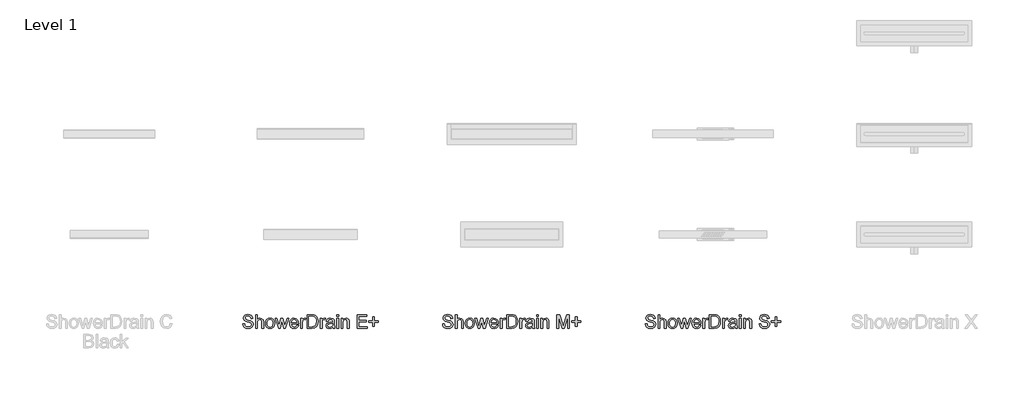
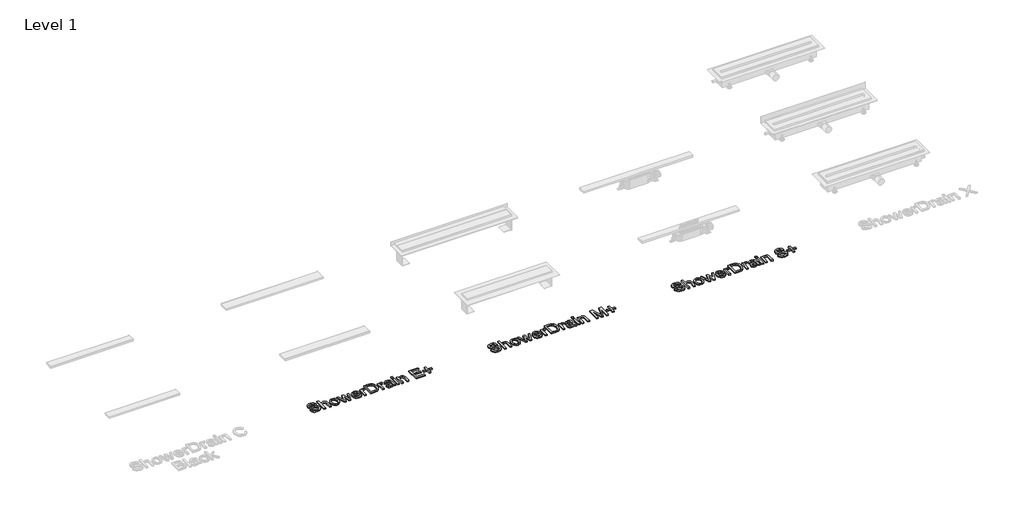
# One storey, part 2 of 3: 3 proxies.
"""IFC4 building model written with IfcOpenShell, lengths in millimetres."""

from ifc_helpers import new_model, si_unit, origin, origin_with_axes, place, context, project, spatial, polyline, outline, extrude, element, save

model = new_model("IFC4")

# Units and contexts
model_context = context("Model", 3, world=origin())
ifc_project = project(units=[si_unit("LENGTHUNIT", "METRE", prefix="MILLI")], contexts=[model_context])

# Site, building, storey
site = spatial("IfcSite", under=ifc_project)
building = spatial("IfcBuilding", under=site)
storey = spatial("IfcBuildingStorey", under=building, Name="Level 1", Elevation=0.0)

# Proxies
placement = place(None, origin())
element("IfcBuildingElementProxy", 1, Name="100mm ACO", ObjectType="100mm ACO", at=placement, inside=storey, context=model_context, shape_type="SweptSolid", body=[
    extrude(outline(polyline([(3557.6831943, -629.2183251), (3555.660445, -620.2723888), (3551.1638295, -613.8658032), (3544.193348, -610.0131205), (3534.7490003, -608.728893), (3519.0326745, -612.7307352), (3514.4924026, -617.645725), (3512.9789786, -624.3870102), (3517.4755941, -634.5007569), (3535.7676511, -640.8309437), (3555.7186536, -646.3462099), (3568.9465612, -655.3248886), (3573.0720967, -662.4481678), (3574.4472752, -671.6524049), (3571.9261146, -683.5597045), (3564.3626328, -693.2623529), (3552.7463762, -699.712595), (3538.0668914, -701.8626757), (3519.9785645, -699.4761225), (3507.0999086, -692.3164629), (3499.2417457, -681.3586913), (3496.2148977, -667.5778019), (3509.2536273, -666.4718382), (3511.8984812, -677.4114197), (3518.1449931, -684.9094168), (3527.0327209, -689.2423205), (3537.6012224, -690.6866217), (3554.8309722, -685.9280675), (3559.7641523, -680.3218504), (3561.4085456, -673.0203073), (3559.7095817, -665.6496416), (3554.6126899, -660.5927682), (3531.1982749, -653.0984091), (3516.9044221, -648.7327631), (3507.2599823, -642.8245887), (3501.7701824, -635.1519658), (3499.9402491, -625.4929738), (3502.2358513, -614.4333371), (3509.1226579, -605.4692106), (3519.9676504, -599.5319319), (3534.1378099, -597.552839), (3548.7845524, -599.5464841), (3560.2443734, -605.5274192), (3567.796941, -615.175497), (3570.7219239, -628.1705701), (3557.6831943, -629.2183251)])), origin_with_axes(), (0.0, 0.0, 1.0), 10.0),
    extrude(outline(polyline([(3650.816977, -700.0), (3637.7782475, -700.0), (3637.7782475, -653.0256483), (3634.0674483, -639.3611762), (3622.9932595, -634.8063521), (3609.9836342, -640.1760968), (3605.6834728, -647.6522657), (3604.2500857, -659.341283), (3604.2500857, -700.0), (3591.2113561, -700.0), (3591.2113561, -599.4155147), (3604.2500857, -599.4155147), (3604.2500857, -635.4466469), (3614.0073046, -627.9813921), (3625.9327945, -625.4929738), (3639.2916714, -628.3743002), (3648.2412459, -637.2365618), (3650.816977, -653.8405689), (3650.816977, -700.0)])), origin_with_axes(), (0.0, 0.0, 1.0), 10.0),
    extrude(outline(polyline([(3699.2174397, -625.4929738), (3712.4708136, -627.9013552), (3723.2430452, -635.1264995), (3730.3917907, -646.7900506), (3732.7747058, -662.5136525), (3730.1953366, -680.8930224), (3722.457229, -692.9567577), (3711.4885432, -699.6361962), (3699.2174397, -701.8626757), (3686.5534281, -699.5743495), (3675.6866074, -692.7093711), (3668.2104386, -680.8748322), (3665.7183823, -663.6778247), (3668.1267637, -646.8628113), (3675.3519079, -634.9518736), (3686.1350537, -627.8576988), (3699.2174397, -625.4929738)]), holes=[polyline([(3699.2174397, -692.5492974), (3708.0760632, -690.5301861), (3714.5117531, -684.4728522), (3719.7359762, -663.2121558), (3718.2589327, -650.8573775), (3713.8278019, -641.9660117), (3707.2211242, -636.596267), (3699.2174397, -634.8063521), (3691.0573196, -636.6217333), (3684.5052125, -642.0678767), (3680.194137, -651.1084021), (3678.7571118, -663.7069291), (3680.2196033, -676.2617995), (3684.6070776, -685.2877728), (3691.184651, -690.7339162), (3699.2174397, -692.5492974)])]), origin_with_axes(), (0.0, 0.0, 1.0), 10.0),
    extrude(outline(polyline([(3837.5502114, -627.3556495), (3813.1899063, -700.0), (3800.8496801, -700.0), (3790.2848166, -656.3435394), (3788.9751228, -650.4499172), (3787.7236376, -644.0033131), (3774.8886382, -700.0), (3762.5775163, -700.0), (3737.8970639, -627.3556495), (3749.5096824, -627.3556495), (3767.2342054, -684.9239689), (3769.3588198, -675.1158174), (3780.4475608, -627.3556495), (3795.1161316, -627.3556495), (3803.9056324, -665.4531875), (3807.9802353, -683.3523363), (3825.9375928, -627.3556495), (3837.5502114, -627.3556495)])), origin_with_axes(), (0.0, 0.0, 1.0), 10.0),
    extrude(outline(polyline([(3911.5915686, -666.4718382), (3857.5739746, -666.4718382), (3859.6585706, -677.6624443), (3864.3989347, -685.8553068), (3871.2202566, -690.8757997), (3879.5477265, -692.5492974), (3891.2913144, -688.8384982), (3898.552839, -677.6478922), (3911.5915686, -679.1613161), (3907.1895422, -688.8384982), (3900.2117845, -695.9836056), (3890.9129584, -700.3929081), (3879.5477265, -701.8626757), (3864.8755177, -699.3415151), (3853.8049669, -691.7780332), (3846.8526755, -679.8489054), (3844.5352451, -664.2308066), (3846.7690006, -648.6017937), (3853.4702673, -636.2324632), (3864.2315849, -628.1778462), (3878.645493, -625.4929738), (3893.9543585, -628.9709385), (3906.4546584, -640.8163915), (3910.3073411, -651.4139973), (3911.5915686, -666.4718382)]), holes=[polyline([(3898.552839, -657.15846), (3896.4573289, -646.9428482), (3891.6842226, -640.0451274), (3878.3253456, -634.8063521), (3870.4235262, -636.3634325), (3864.0642351, -641.0346738), (3857.5739746, -657.15846), (3898.552839, -657.15846)])]), origin_with_axes(), (0.0, 0.0, 1.0), 10.0),
    extrude(outline(polyline([(3965.6091626, -628.3451959), (3961.5345596, -636.6690278), (3952.9778933, -634.8063521), (3947.1497558, -636.4434694), (3942.9369073, -641.3548212), (3939.5317034, -659.6905347), (3939.5317034, -700.0), (3926.4929738, -700.0), (3926.4929738, -627.3556495), (3937.6690278, -627.3556495), (3937.6690278, -638.1242431), (3944.6395093, -628.6507912), (3953.1234148, -625.4929738), (3965.6091626, -628.3451959)])), origin_with_axes(), (0.0, 0.0, 1.0), 10.0),
    extrude(outline(polyline([(3974.9225408, -599.4155147), (4009.149206, -599.4155147), (4024.6326974, -600.3468525), (4037.0311322, -604.8725723), (4047.3777134, -614.7825888), (4054.3481949, -629.2910859), (4056.8802696, -649.1547755), (4054.2754341, -669.4077352), (4046.4609277, -685.6952331), (4032.2944062, -696.4238083), (4010.6335256, -700.0), (3974.9225408, -700.0), (3974.9225408, -599.4155147)]), holes=[polyline([(3987.9612704, -688.8239461), (4009.4111448, -688.8239461), (4021.1256284, -687.9799212), (4031.5886268, -683.4250971), (4040.3635753, -671.2594967), (4043.84154, -648.8637324), (4042.5027419, -634.4862047), (4037.584114, -622.3060522), (4029.3621473, -614.2587113), (4020.3107078, -611.1445504), (4009.0036845, -610.5915686), (3987.9612704, -610.5915686), (3987.9612704, -688.8239461)])]), origin_with_axes(), (0.0, 0.0, 1.0), 10.0),
    extrude(outline(polyline([(4112.7605392, -628.3451959), (4108.6859363, -636.6690278), (4100.12927, -634.8063521), (4094.3011325, -636.4434694), (4090.088284, -641.3548212), (4086.6830801, -659.6905347), (4086.6830801, -700.0), (4073.6443505, -700.0), (4073.6443505, -627.3556495), (4084.8204044, -627.3556495), (4084.8204044, -638.1242431), (4091.790886, -628.6507912), (4100.2747915, -625.4929738), (4112.7605392, -628.3451959)])), origin_with_axes(), (0.0, 0.0, 1.0), 10.0),
    extrude(outline(polyline([(4183.5422141, -700.0), (4170.5034845, -700.0), (4166.7781332, -691.2104993), (4154.2123486, -699.1996316), (4140.6715697, -701.8626757), (4130.6269458, -700.4074603), (4122.9615989, -696.0418142), (4118.1048176, -689.289615), (4116.4858906, -680.6747401), (4118.0720753, -672.3181659), (4122.8306295, -665.5841569), (4131.5109891, -660.6618909), (4144.86259, -657.7405461), (4156.2714784, -655.9942877), (4166.7781332, -653.4331086), (4166.4434337, -645.3566634), (4164.4934451, -640.4525877), (4159.2983263, -636.3634325), (4149.6648006, -634.8063521), (4137.5137524, -637.9641694), (4131.3872958, -649.7077573), (4118.3485662, -648.1070205), (4121.9247579, -638.2406603), (4128.6369388, -631.1683137), (4138.4778326, -626.9118088), (4151.4401634, -625.4929738), (4170.8090797, -629.3783988), (4178.4053039, -638.7499857), (4179.8168628, -652.8801268), (4179.8168628, -669.4986862), (4180.3698446, -689.8717011), (4183.5422141, -700.0)]), holes=[polyline([(4166.7781332, -667.4031761), (4166.7781332, -662.7464869), (4143.3637182, -668.1016794), (4132.9843946, -672.1835585), (4129.5246201, -680.4710099), (4133.2499714, -689.1440935), (4143.9894608, -692.5492974), (4159.8949646, -686.8448532), (4165.0573411, -679.1322118), (4166.7781332, -667.4031761)])]), origin_with_axes(), (0.0, 0.0, 1.0), 10.0),
    extrude(outline(polyline([(4211.4823489, -612.4542443), (4198.4436193, -612.4542443), (4198.4436193, -599.4155147), (4211.4823489, -599.4155147), (4211.4823489, -612.4542443)])), origin_with_axes(), (0.0, 0.0, 1.0), 10.0),
    extrude(outline(polyline([(4211.4823489, -700.0), (4198.4436193, -700.0), (4198.4436193, -627.3556495), (4211.4823489, -627.3556495), (4211.4823489, -700.0)])), origin_with_axes(), (0.0, 0.0, 1.0), 10.0),
    extrude(outline(polyline([(4289.7147264, -700.0), (4276.6759968, -700.0), (4276.6759968, -654.7719068), (4272.7905718, -639.0846853), (4261.9783217, -634.8063521), (4251.8936793, -637.542157), (4245.1414801, -645.2547984), (4243.147835, -659.341283), (4243.147835, -700.0), (4230.1091054, -700.0), (4230.1091054, -627.3556495), (4241.2851594, -627.3556495), (4241.2851594, -637.4548441), (4251.2388324, -628.4761653), (4264.568605, -625.4929738), (4276.0065977, -627.5593796), (4284.8543071, -633.7440449), (4288.8852536, -642.5335456), (4289.7147264, -655.1502628), (4289.7147264, -700.0)])), origin_with_axes(), (0.0, 0.0, 1.0), 10.0),
    extrude(outline(polyline([(4423.8273735, -700.0), (4349.3203473, -700.0), (4349.3203473, -599.4155147), (4421.9646978, -599.4155147), (4421.9646978, -610.5915686), (4362.3590769, -610.5915686), (4362.3590769, -642.2570547), (4418.2393465, -642.2570547), (4418.2393465, -653.4331086), (4362.3590769, -653.4331086), (4362.3590769, -688.8239461), (4423.8273735, -688.8239461), (4423.8273735, -700.0)])), origin_with_axes(), (0.0, 0.0, 1.0), 10.0),
    extrude(outline(polyline([(4505.7851023, -657.15846), (4477.8449674, -657.15846), (4477.8449674, -685.0985948), (4464.8062379, -685.0985948), (4464.8062379, -657.15846), (4436.8661031, -657.15846), (4436.8661031, -644.1197304), (4464.8062379, -644.1197304), (4464.8062379, -616.1795956), (4477.8449674, -616.1795956), (4477.8449674, -644.1197304), (4505.7851023, -644.1197304), (4505.7851023, -657.15846)])), origin_with_axes(), (0.0, 0.0, 1.0), 10.0),
])
element("IfcBuildingElementProxy", 2, Name="100mm ACO", ObjectType="100mm ACO", at=placement, inside=storey, context=model_context, shape_type="SweptSolid", body=[
    extrude(outline(polyline([(5046.5071404, -629.2183251), (5044.4843911, -620.2723888), (5039.9877756, -613.8658032), (5033.0172941, -610.0131205), (5023.5729464, -608.728893), (5007.8566206, -612.7307352), (5003.3163487, -617.645725), (5001.8029247, -624.3870102), (5006.2995402, -634.5007569), (5024.5915972, -640.8309437), (5044.5425997, -646.3462099), (5057.7705073, -655.3248886), (5061.8960428, -662.4481678), (5063.2712213, -671.6524049), (5060.7500607, -683.5597045), (5053.1865789, -693.2623529), (5041.5703223, -699.712595), (5026.8908374, -701.8626757), (5008.8025106, -699.4761225), (4995.9238547, -692.3164629), (4988.0656918, -681.3586913), (4985.0388438, -667.5778019), (4998.0775734, -666.4718382), (5000.7224273, -677.4114197), (5006.9689392, -684.9094168), (5015.856667, -689.2423205), (5026.4251685, -690.6866217), (5043.6549183, -685.9280675), (5048.5880984, -680.3218504), (5050.2324917, -673.0203073), (5048.5335278, -665.6496416), (5043.436636, -660.5927682), (5020.022221, -653.0984091), (5005.7283681, -648.7327631), (4996.0839284, -642.8245887), (4990.5941284, -635.1519658), (4988.7641951, -625.4929738), (4991.0597974, -614.4333371), (4997.946604, -605.4692106), (5008.7915965, -599.5319319), (5022.961756, -597.552839), (5037.6084985, -599.5464841), (5049.0683194, -605.5274192), (5056.6208871, -615.175497), (5059.54587, -628.1705701), (5046.5071404, -629.2183251)])), origin_with_axes(), (0.0, 0.0, 1.0), 10.0),
    extrude(outline(polyline([(5139.6409231, -700.0), (5126.6021935, -700.0), (5126.6021935, -653.0256483), (5122.8913944, -639.3611762), (5111.8172055, -634.8063521), (5098.8075803, -640.1760968), (5094.5074189, -647.6522657), (5093.0740318, -659.341283), (5093.0740318, -700.0), (5080.0353022, -700.0), (5080.0353022, -599.4155147), (5093.0740318, -599.4155147), (5093.0740318, -635.4466469), (5102.8312507, -627.9813921), (5114.7567405, -625.4929738), (5128.1156175, -628.3743002), (5137.0651919, -637.2365618), (5139.6409231, -653.8405689), (5139.6409231, -700.0)])), origin_with_axes(), (0.0, 0.0, 1.0), 10.0),
    extrude(outline(polyline([(5188.0413858, -625.4929738), (5201.2947597, -627.9013552), (5212.0669913, -635.1264995), (5219.2157367, -646.7900506), (5221.5986519, -662.5136525), (5219.0192827, -680.8930224), (5211.281175, -692.9567577), (5200.3124893, -699.6361962), (5188.0413858, -701.8626757), (5175.3773742, -699.5743495), (5164.5105535, -692.7093711), (5157.0343846, -680.8748322), (5154.5423283, -663.6778247), (5156.9507098, -646.8628113), (5164.175854, -634.9518736), (5174.9589998, -627.8576988), (5188.0413858, -625.4929738)]), holes=[polyline([(5188.0413858, -692.5492974), (5196.9000093, -690.5301861), (5203.3356992, -684.4728522), (5208.5599223, -663.2121558), (5207.0828787, -650.8573775), (5202.651748, -641.9660117), (5196.0450703, -636.596267), (5188.0413858, -634.8063521), (5179.8812657, -636.6217333), (5173.3291586, -642.0678767), (5169.0180831, -651.1084021), (5167.5810579, -663.7069291), (5169.0435494, -676.2617995), (5173.4310236, -685.2877728), (5180.0085971, -690.7339162), (5188.0413858, -692.5492974)])]), origin_with_axes(), (0.0, 0.0, 1.0), 10.0),
    extrude(outline(polyline([(5326.3741574, -627.3556495), (5302.0138524, -700.0), (5289.6736262, -700.0), (5279.1087627, -656.3435394), (5277.7990689, -650.4499172), (5276.5475837, -644.0033131), (5263.7125843, -700.0), (5251.4014624, -700.0), (5226.7210099, -627.3556495), (5238.3336285, -627.3556495), (5256.0581515, -684.9239689), (5258.1827659, -675.1158174), (5269.2715069, -627.3556495), (5283.9400777, -627.3556495), (5292.7295784, -665.4531875), (5296.8041814, -683.3523363), (5314.7615389, -627.3556495), (5326.3741574, -627.3556495)])), origin_with_axes(), (0.0, 0.0, 1.0), 10.0),
    extrude(outline(polyline([(5400.4155147, -666.4718382), (5346.3979207, -666.4718382), (5348.4825167, -677.6624443), (5353.2228807, -685.8553068), (5360.0442027, -690.8757997), (5368.3716726, -692.5492974), (5380.1152605, -688.8384982), (5387.3767851, -677.6478922), (5400.4155147, -679.1613161), (5396.0134882, -688.8384982), (5389.0357306, -695.9836056), (5379.7369045, -700.3929081), (5368.3716726, -701.8626757), (5353.6994638, -699.3415151), (5342.6289129, -691.7780332), (5335.6766216, -679.8489054), (5333.3591911, -664.2308066), (5335.5929467, -648.6017937), (5342.2942134, -636.2324632), (5353.055531, -628.1778462), (5367.469439, -625.4929738), (5382.7783046, -628.9709385), (5395.2786045, -640.8163915), (5399.1312871, -651.4139973), (5400.4155147, -666.4718382)]), holes=[polyline([(5387.3767851, -657.15846), (5385.281275, -646.9428482), (5380.5081686, -640.0451274), (5367.1492917, -634.8063521), (5359.2474723, -636.3634325), (5352.8881812, -641.0346738), (5346.3979207, -657.15846), (5387.3767851, -657.15846)])]), origin_with_axes(), (0.0, 0.0, 1.0), 10.0),
    extrude(outline(polyline([(5454.4331086, -628.3451959), (5450.3585057, -636.6690278), (5441.8018394, -634.8063521), (5435.9737019, -636.4434694), (5431.7608534, -641.3548212), (5428.3556495, -659.6905347), (5428.3556495, -700.0), (5415.3169199, -700.0), (5415.3169199, -627.3556495), (5426.4929738, -627.3556495), (5426.4929738, -638.1242431), (5433.4634554, -628.6507912), (5441.9473609, -625.4929738), (5454.4331086, -628.3451959)])), origin_with_axes(), (0.0, 0.0, 1.0), 10.0),
    extrude(outline(polyline([(5463.7464869, -599.4155147), (5497.9731521, -599.4155147), (5513.4566434, -600.3468525), (5525.8550783, -604.8725723), (5536.2016594, -614.7825888), (5543.172141, -629.2910859), (5545.7042157, -649.1547755), (5543.0993802, -669.4077352), (5535.2848738, -685.6952331), (5521.1183523, -696.4238083), (5499.4574717, -700.0), (5463.7464869, -700.0), (5463.7464869, -599.4155147)]), holes=[polyline([(5476.7852165, -688.8239461), (5498.2350908, -688.8239461), (5509.9495744, -687.9799212), (5520.4125728, -683.4250971), (5529.1875214, -671.2594967), (5532.6654861, -648.8637324), (5531.326688, -634.4862047), (5526.4080601, -622.3060522), (5518.1860933, -614.2587113), (5509.1346538, -611.1445504), (5497.8276305, -610.5915686), (5476.7852165, -610.5915686), (5476.7852165, -688.8239461)])]), origin_with_axes(), (0.0, 0.0, 1.0), 10.0),
    extrude(outline(polyline([(5601.5844853, -628.3451959), (5597.5098823, -636.6690278), (5588.953216, -634.8063521), (5583.1250785, -636.4434694), (5578.9122301, -641.3548212), (5575.5070262, -659.6905347), (5575.5070262, -700.0), (5562.4682966, -700.0), (5562.4682966, -627.3556495), (5573.6443505, -627.3556495), (5573.6443505, -638.1242431), (5580.6148321, -628.6507912), (5589.0987376, -625.4929738), (5601.5844853, -628.3451959)])), origin_with_axes(), (0.0, 0.0, 1.0), 10.0),
    extrude(outline(polyline([(5672.3661602, -700.0), (5659.3274306, -700.0), (5655.6020793, -691.2104993), (5643.0362947, -699.1996316), (5629.4955158, -701.8626757), (5619.4508918, -700.4074603), (5611.785545, -696.0418142), (5606.9287637, -689.289615), (5605.3098366, -680.6747401), (5606.8960214, -672.3181659), (5611.6545756, -665.5841569), (5620.3349352, -660.6618909), (5633.686536, -657.7405461), (5645.0954244, -655.9942877), (5655.6020793, -653.4331086), (5655.2673798, -645.3566634), (5653.3173912, -640.4525877), (5648.1222724, -636.3634325), (5638.4887467, -634.8063521), (5626.3376985, -637.9641694), (5620.2112419, -649.7077573), (5607.1725123, -648.1070205), (5610.748704, -638.2406603), (5617.4608848, -631.1683137), (5627.3017787, -626.9118088), (5640.2641094, -625.4929738), (5659.6330258, -629.3783988), (5667.22925, -638.7499857), (5668.6408089, -652.8801268), (5668.6408089, -669.4986862), (5669.1937907, -689.8717011), (5672.3661602, -700.0)]), holes=[polyline([(5655.6020793, -667.4031761), (5655.6020793, -662.7464869), (5632.1876642, -668.1016794), (5621.8083407, -672.1835585), (5618.3485662, -680.4710099), (5622.0739175, -689.1440935), (5632.8134068, -692.5492974), (5648.7189107, -686.8448532), (5653.8812871, -679.1322118), (5655.6020793, -667.4031761)])]), origin_with_axes(), (0.0, 0.0, 1.0), 10.0),
    extrude(outline(polyline([(5700.306295, -612.4542443), (5687.2675654, -612.4542443), (5687.2675654, -599.4155147), (5700.306295, -599.4155147), (5700.306295, -612.4542443)])), origin_with_axes(), (0.0, 0.0, 1.0), 10.0),
    extrude(outline(polyline([(5700.306295, -700.0), (5687.2675654, -700.0), (5687.2675654, -627.3556495), (5700.306295, -627.3556495), (5700.306295, -700.0)])), origin_with_axes(), (0.0, 0.0, 1.0), 10.0),
    extrude(outline(polyline([(5778.5386725, -700.0), (5765.4999429, -700.0), (5765.4999429, -654.7719068), (5761.6145179, -639.0846853), (5750.8022678, -634.8063521), (5740.7176254, -637.542157), (5733.9654261, -645.2547984), (5731.9717811, -659.341283), (5731.9717811, -700.0), (5718.9330515, -700.0), (5718.9330515, -627.3556495), (5730.1091054, -627.3556495), (5730.1091054, -637.4548441), (5740.0627785, -628.4761653), (5753.3925511, -625.4929738), (5764.8305438, -627.5593796), (5773.6782532, -633.7440449), (5777.7091997, -642.5335456), (5778.5386725, -655.1502628), (5778.5386725, -700.0)])), origin_with_axes(), (0.0, 0.0, 1.0), 10.0),
    extrude(outline(polyline([(5931.2780761, -700.0), (5918.2393465, -700.0), (5918.2393465, -615.7139267), (5892.5693477, -700.0), (5878.7156975, -700.0), (5851.561379, -614.3460242), (5851.183023, -700.0), (5838.1442934, -700.0), (5838.1442934, -599.4155147), (5857.9643265, -599.4155147), (5880.9276248, -670.6919628), (5885.3805838, -685.593368), (5890.4156289, -669.4695819), (5911.8946076, -599.4155147), (5931.2780761, -599.4155147), (5931.2780761, -700.0)])), origin_with_axes(), (0.0, 0.0, 1.0), 10.0),
    extrude(outline(polyline([(6016.9611562, -657.15846), (5989.0210214, -657.15846), (5989.0210214, -685.0985948), (5975.9822918, -685.0985948), (5975.9822918, -657.15846), (5948.042157, -657.15846), (5948.042157, -644.1197304), (5975.9822918, -644.1197304), (5975.9822918, -616.1795956), (5989.0210214, -616.1795956), (5989.0210214, -644.1197304), (6016.9611562, -644.1197304), (6016.9611562, -657.15846)])), origin_with_axes(), (0.0, 0.0, 1.0), 10.0),
])
element("IfcBuildingElementProxy", 3, Name="100mm ACO", ObjectType="100mm ACO", at=placement, inside=storey, context=model_context, shape_type="SweptSolid", body=[
    extrude(outline(polyline([(6557.6831943, -629.2183251), (6555.660445, -620.2723888), (6551.1638295, -613.8658032), (6544.193348, -610.0131205), (6534.7490003, -608.728893), (6519.0326745, -612.7307352), (6514.4924026, -617.645725), (6512.9789786, -624.3870102), (6517.4755941, -634.5007569), (6535.7676511, -640.8309437), (6555.7186536, -646.3462099), (6568.9465612, -655.3248886), (6573.0720967, -662.4481678), (6574.4472752, -671.6524049), (6571.9261146, -683.5597045), (6564.3626328, -693.2623529), (6552.7463762, -699.712595), (6538.0668914, -701.8626757), (6519.9785645, -699.4761225), (6507.0999086, -692.3164629), (6499.2417457, -681.3586913), (6496.2148977, -667.5778019), (6509.2536273, -666.4718382), (6511.8984812, -677.4114197), (6518.1449931, -684.9094168), (6527.0327209, -689.2423205), (6537.6012224, -690.6866217), (6554.8309722, -685.9280675), (6559.7641523, -680.3218504), (6561.4085456, -673.0203073), (6559.7095817, -665.6496416), (6554.6126899, -660.5927682), (6531.1982749, -653.0984091), (6516.9044221, -648.7327631), (6507.2599823, -642.8245887), (6501.7701824, -635.1519658), (6499.9402491, -625.4929738), (6502.2358513, -614.4333371), (6509.1226579, -605.4692106), (6519.9676504, -599.5319319), (6534.1378099, -597.552839), (6548.7845524, -599.5464841), (6560.2443734, -605.5274192), (6567.796941, -615.175497), (6570.7219239, -628.1705701), (6557.6831943, -629.2183251)])), origin_with_axes(), (0.0, 0.0, 1.0), 10.0),
    extrude(outline(polyline([(6650.816977, -700.0), (6637.7782475, -700.0), (6637.7782475, -653.0256483), (6634.0674483, -639.3611762), (6622.9932595, -634.8063521), (6609.9836342, -640.1760968), (6605.6834728, -647.6522657), (6604.2500857, -659.341283), (6604.2500857, -700.0), (6591.2113561, -700.0), (6591.2113561, -599.4155147), (6604.2500857, -599.4155147), (6604.2500857, -635.4466469), (6614.0073046, -627.9813921), (6625.9327945, -625.4929738), (6639.2916714, -628.3743002), (6648.2412459, -637.2365618), (6650.816977, -653.8405689), (6650.816977, -700.0)])), origin_with_axes(), (0.0, 0.0, 1.0), 10.0),
    extrude(outline(polyline([(6699.2174397, -625.4929738), (6712.4708136, -627.9013552), (6723.2430452, -635.1264995), (6730.3917907, -646.7900506), (6732.7747058, -662.5136525), (6730.1953366, -680.8930224), (6722.457229, -692.9567577), (6711.4885432, -699.6361962), (6699.2174397, -701.8626757), (6686.5534281, -699.5743495), (6675.6866074, -692.7093711), (6668.2104386, -680.8748322), (6665.7183823, -663.6778247), (6668.1267637, -646.8628113), (6675.3519079, -634.9518736), (6686.1350537, -627.8576988), (6699.2174397, -625.4929738)]), holes=[polyline([(6699.2174397, -692.5492974), (6708.0760632, -690.5301861), (6714.5117531, -684.4728522), (6719.7359762, -663.2121558), (6718.2589327, -650.8573775), (6713.8278019, -641.9660117), (6707.2211242, -636.596267), (6699.2174397, -634.8063521), (6691.0573196, -636.6217333), (6684.5052125, -642.0678767), (6680.194137, -651.1084021), (6678.7571118, -663.7069291), (6680.2196033, -676.2617995), (6684.6070776, -685.2877728), (6691.184651, -690.7339162), (6699.2174397, -692.5492974)])]), origin_with_axes(), (0.0, 0.0, 1.0), 10.0),
    extrude(outline(polyline([(6837.5502114, -627.3556495), (6813.1899063, -700.0), (6800.8496801, -700.0), (6790.2848166, -656.3435394), (6788.9751228, -650.4499172), (6787.7236376, -644.0033131), (6774.8886382, -700.0), (6762.5775163, -700.0), (6737.8970639, -627.3556495), (6749.5096824, -627.3556495), (6767.2342054, -684.9239689), (6769.3588198, -675.1158174), (6780.4475608, -627.3556495), (6795.1161316, -627.3556495), (6803.9056324, -665.4531875), (6807.9802353, -683.3523363), (6825.9375928, -627.3556495), (6837.5502114, -627.3556495)])), origin_with_axes(), (0.0, 0.0, 1.0), 10.0),
    extrude(outline(polyline([(6911.5915686, -666.4718382), (6857.5739746, -666.4718382), (6859.6585706, -677.6624443), (6864.3989347, -685.8553068), (6871.2202566, -690.8757997), (6879.5477265, -692.5492974), (6891.2913144, -688.8384982), (6898.552839, -677.6478922), (6911.5915686, -679.1613161), (6907.1895422, -688.8384982), (6900.2117845, -695.9836056), (6890.9129584, -700.3929081), (6879.5477265, -701.8626757), (6864.8755177, -699.3415151), (6853.8049669, -691.7780332), (6846.8526755, -679.8489054), (6844.5352451, -664.2308066), (6846.7690006, -648.6017937), (6853.4702673, -636.2324632), (6864.2315849, -628.1778462), (6878.645493, -625.4929738), (6893.9543585, -628.9709385), (6906.4546584, -640.8163915), (6910.3073411, -651.4139973), (6911.5915686, -666.4718382)]), holes=[polyline([(6898.552839, -657.15846), (6896.4573289, -646.9428482), (6891.6842226, -640.0451274), (6878.3253456, -634.8063521), (6870.4235262, -636.3634325), (6864.0642351, -641.0346738), (6857.5739746, -657.15846), (6898.552839, -657.15846)])]), origin_with_axes(), (0.0, 0.0, 1.0), 10.0),
    extrude(outline(polyline([(6965.6091626, -628.3451959), (6961.5345596, -636.6690278), (6952.9778933, -634.8063521), (6947.1497558, -636.4434694), (6942.9369073, -641.3548212), (6939.5317034, -659.6905347), (6939.5317034, -700.0), (6926.4929738, -700.0), (6926.4929738, -627.3556495), (6937.6690278, -627.3556495), (6937.6690278, -638.1242431), (6944.6395093, -628.6507912), (6953.1234148, -625.4929738), (6965.6091626, -628.3451959)])), origin_with_axes(), (0.0, 0.0, 1.0), 10.0),
    extrude(outline(polyline([(6974.9225408, -599.4155147), (7009.149206, -599.4155147), (7024.6326974, -600.3468525), (7037.0311322, -604.8725723), (7047.3777134, -614.7825888), (7054.3481949, -629.2910859), (7056.8802696, -649.1547755), (7054.2754341, -669.4077352), (7046.4609277, -685.6952331), (7032.2944062, -696.4238083), (7010.6335256, -700.0), (6974.9225408, -700.0), (6974.9225408, -599.4155147)]), holes=[polyline([(6987.9612704, -688.8239461), (7009.4111448, -688.8239461), (7021.1256284, -687.9799212), (7031.5886268, -683.4250971), (7040.3635753, -671.2594967), (7043.84154, -648.8637324), (7042.5027419, -634.4862047), (7037.584114, -622.3060522), (7029.3621473, -614.2587113), (7020.3107078, -611.1445504), (7009.0036845, -610.5915686), (6987.9612704, -610.5915686), (6987.9612704, -688.8239461)])]), origin_with_axes(), (0.0, 0.0, 1.0), 10.0),
    extrude(outline(polyline([(7112.7605392, -628.3451959), (7108.6859363, -636.6690278), (7100.12927, -634.8063521), (7094.3011325, -636.4434694), (7090.088284, -641.3548212), (7086.6830801, -659.6905347), (7086.6830801, -700.0), (7073.6443505, -700.0), (7073.6443505, -627.3556495), (7084.8204044, -627.3556495), (7084.8204044, -638.1242431), (7091.790886, -628.6507912), (7100.2747915, -625.4929738), (7112.7605392, -628.3451959)])), origin_with_axes(), (0.0, 0.0, 1.0), 10.0),
    extrude(outline(polyline([(7183.5422141, -700.0), (7170.5034845, -700.0), (7166.7781332, -691.2104993), (7154.2123486, -699.1996316), (7140.6715697, -701.8626757), (7130.6269458, -700.4074603), (7122.9615989, -696.0418142), (7118.1048176, -689.289615), (7116.4858906, -680.6747401), (7118.0720753, -672.3181659), (7122.8306295, -665.5841569), (7131.5109891, -660.6618909), (7144.86259, -657.7405461), (7156.2714784, -655.9942877), (7166.7781332, -653.4331086), (7166.4434337, -645.3566634), (7164.4934451, -640.4525877), (7159.2983263, -636.3634325), (7149.6648006, -634.8063521), (7137.5137524, -637.9641694), (7131.3872958, -649.7077573), (7118.3485662, -648.1070205), (7121.9247579, -638.2406603), (7128.6369388, -631.1683137), (7138.4778326, -626.9118088), (7151.4401634, -625.4929738), (7170.8090797, -629.3783988), (7178.4053039, -638.7499857), (7179.8168628, -652.8801268), (7179.8168628, -669.4986862), (7180.3698446, -689.8717011), (7183.5422141, -700.0)]), holes=[polyline([(7166.7781332, -667.4031761), (7166.7781332, -662.7464869), (7143.3637182, -668.1016794), (7132.9843946, -672.1835585), (7129.5246201, -680.4710099), (7133.2499714, -689.1440935), (7143.9894608, -692.5492974), (7159.8949646, -686.8448532), (7165.0573411, -679.1322118), (7166.7781332, -667.4031761)])]), origin_with_axes(), (0.0, 0.0, 1.0), 10.0),
    extrude(outline(polyline([(7211.4823489, -612.4542443), (7198.4436193, -612.4542443), (7198.4436193, -599.4155147), (7211.4823489, -599.4155147), (7211.4823489, -612.4542443)])), origin_with_axes(), (0.0, 0.0, 1.0), 10.0),
    extrude(outline(polyline([(7211.4823489, -700.0), (7198.4436193, -700.0), (7198.4436193, -627.3556495), (7211.4823489, -627.3556495), (7211.4823489, -700.0)])), origin_with_axes(), (0.0, 0.0, 1.0), 10.0),
    extrude(outline(polyline([(7289.7147264, -700.0), (7276.6759968, -700.0), (7276.6759968, -654.7719068), (7272.7905718, -639.0846853), (7261.9783217, -634.8063521), (7251.8936793, -637.542157), (7245.1414801, -645.2547984), (7243.147835, -659.341283), (7243.147835, -700.0), (7230.1091054, -700.0), (7230.1091054, -627.3556495), (7241.2851594, -627.3556495), (7241.2851594, -637.4548441), (7251.2388324, -628.4761653), (7264.568605, -625.4929738), (7276.0065977, -627.5593796), (7284.8543071, -633.7440449), (7288.8852536, -642.5335456), (7289.7147264, -655.1502628), (7289.7147264, -700.0)])), origin_with_axes(), (0.0, 0.0, 1.0), 10.0),
    extrude(outline(polyline([(7407.0632926, -629.2183251), (7405.0405432, -620.2723888), (7400.5439278, -613.8658032), (7393.5734462, -610.0131205), (7384.1290986, -608.728893), (7368.4127728, -612.7307352), (7363.8725009, -617.645725), (7362.3590769, -624.3870102), (7366.8556923, -634.5007569), (7385.1477493, -640.8309437), (7405.0987519, -646.3462099), (7418.3266594, -655.3248886), (7422.452195, -662.4481678), (7423.8273735, -671.6524049), (7421.3062129, -683.5597045), (7413.7427311, -693.2623529), (7402.1264745, -699.712595), (7387.4469896, -701.8626757), (7369.3586627, -699.4761225), (7356.4800069, -692.3164629), (7348.6218439, -681.3586913), (7345.594996, -667.5778019), (7358.6337256, -666.4718382), (7361.2785795, -677.4114197), (7367.5250914, -684.9094168), (7376.4128192, -689.2423205), (7386.9813207, -690.6866217), (7404.2110705, -685.9280675), (7409.1442505, -680.3218504), (7410.7886439, -673.0203073), (7409.08968, -665.6496416), (7403.9927882, -660.5927682), (7380.5783731, -653.0984091), (7366.2845203, -648.7327631), (7356.6400805, -642.8245887), (7351.1502806, -635.1519658), (7349.3203473, -625.4929738), (7351.6159495, -614.4333371), (7358.5027562, -605.4692106), (7369.3477486, -599.5319319), (7383.5179081, -597.552839), (7398.1646507, -599.5464841), (7409.6244716, -605.5274192), (7417.1770393, -615.175497), (7420.1020222, -628.1705701), (7407.0632926, -629.2183251)])), origin_with_axes(), (0.0, 0.0, 1.0), 10.0),
    extrude(outline(polyline([(7505.7851023, -657.15846), (7477.8449674, -657.15846), (7477.8449674, -685.0985948), (7464.8062379, -685.0985948), (7464.8062379, -657.15846), (7436.8661031, -657.15846), (7436.8661031, -644.1197304), (7464.8062379, -644.1197304), (7464.8062379, -616.1795956), (7477.8449674, -616.1795956), (7477.8449674, -644.1197304), (7505.7851023, -644.1197304), (7505.7851023, -657.15846)])), origin_with_axes(), (0.0, 0.0, 1.0), 10.0),
])

save(model, "model.ifc")
